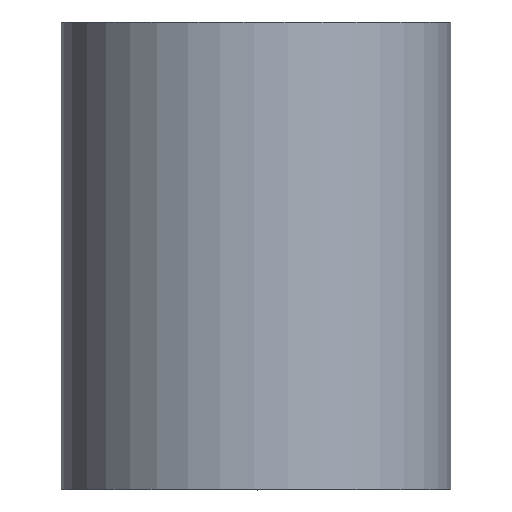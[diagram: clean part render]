
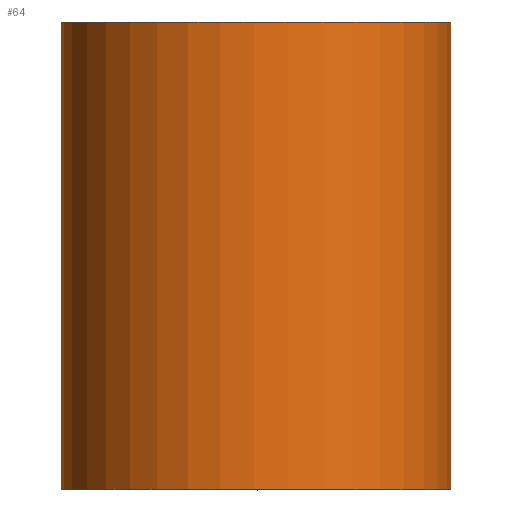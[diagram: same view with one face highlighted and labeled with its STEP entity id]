
A CAD part, top view. The second image highlights one B-rep face of the part: STEP entity #64.
In plain terms, the highlighted cylindrical face has radius 2.5 mm (diameter 5 mm), a full revolution.
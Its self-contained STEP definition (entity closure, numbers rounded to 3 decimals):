
#17=LINE('',#124,#19);
#19=VECTOR('',#105,2.5);
#21=CYLINDRICAL_SURFACE('',#85,2.5);
#24=FACE_OUTER_BOUND('',#29,.T.);
#29=EDGE_LOOP('',(#52,#53,#54,#55));
#35=CIRCLE('',#86,2.5);
#36=CIRCLE('',#87,2.5);
#39=VERTEX_POINT('',#121);
#40=VERTEX_POINT('',#123);
#44=EDGE_CURVE('',#39,#39,#35,.T.);
#45=EDGE_CURVE('',#39,#40,#17,.T.);
#46=EDGE_CURVE('',#40,#40,#36,.T.);
#52=ORIENTED_EDGE('',*,*,#44,.F.);
#53=ORIENTED_EDGE('',*,*,#45,.T.);
#54=ORIENTED_EDGE('',*,*,#46,.T.);
#55=ORIENTED_EDGE('',*,*,#45,.F.);
#64=ADVANCED_FACE('',(#24),#21,.T.);
#85=AXIS2_PLACEMENT_3D('',#120,#101,#102);
#86=AXIS2_PLACEMENT_3D('',#122,#103,#104);
#87=AXIS2_PLACEMENT_3D('',#125,#106,#107);
#101=DIRECTION('center_axis',(0.,-1.,0.));
#102=DIRECTION('ref_axis',(0.508,0.,-0.861));
#103=DIRECTION('center_axis',(0.,-1.,0.));
#104=DIRECTION('ref_axis',(0.508,0.,-0.861));
#105=DIRECTION('',(0.,1.,0.));
#106=DIRECTION('center_axis',(0.,-1.,0.));
#107=DIRECTION('ref_axis',(0.508,0.,-0.861));
#120=CARTESIAN_POINT('Origin',(2.,6.,4.5));
#121=CARTESIAN_POINT('',(0.731,0.,6.654));
#122=CARTESIAN_POINT('Origin',(2.,0.,4.5));
#123=CARTESIAN_POINT('',(0.731,6.,6.654));
#124=CARTESIAN_POINT('',(0.731,6.,6.654));
#125=CARTESIAN_POINT('Origin',(2.,6.,4.5));
